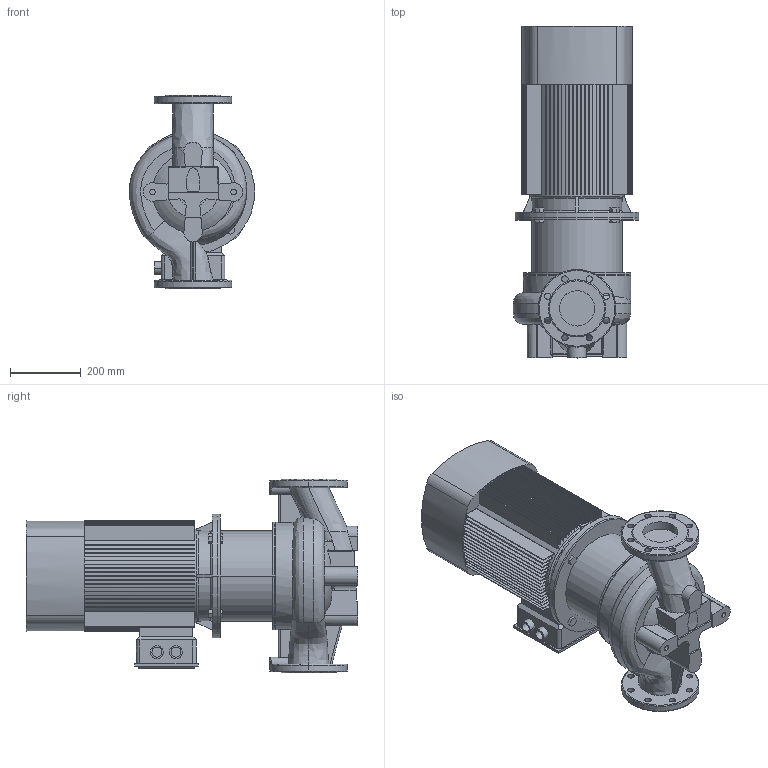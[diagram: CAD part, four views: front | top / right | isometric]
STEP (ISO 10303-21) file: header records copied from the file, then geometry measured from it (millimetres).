
FILE_DESCRIPTION (( 'STEP AP203' ), '1' );
FILE_NAME ('TD100-40G_2.STEP', '2022-05-02T18:58:32', ( '' ), ( '' ), 'SwSTEP 2.0', 'SolidWorks 2019', '' );
FILE_SCHEMA (( 'CONFIG_CONTROL_DESIGN' ));
Length unit declared in the file: millimetre
Products named in the file (4): Fon_100_TD100-40G_2; Pr_ch 100_TD100-40G_2; ED_B5_YE2-160L-2 (18.5); TD100-40G_2
Assembly tree (3 placements, depth 2):
  TD100-40G_2
    Pr_ch 100_TD100-40G_2
    Fon_100_TD100-40G_2
    ED_B5_YE2-160L-2 (18.5)
Bounding box: 356 x 941 x 550 mm (x, y, z)
Volume: 59294856.2 mm3; surface area: 3143449 mm2
Topology: 13 solids, 15 shells, 742 faces, 2040 edges, 1341 vertices
Faces by surface type: plane 505, cylinder 160, torus 30, bspline 28, cone 17, sphere 2
Entity records: 31073 total; most frequent: CARTESIAN_POINT 11556, ORIENTED_EDGE 4072, DIRECTION 3971, EDGE_CURVE 2036, AXIS2_PLACEMENT_3D 1393, VERTEX_POINT 1341, LINE 1185, VECTOR 1185
